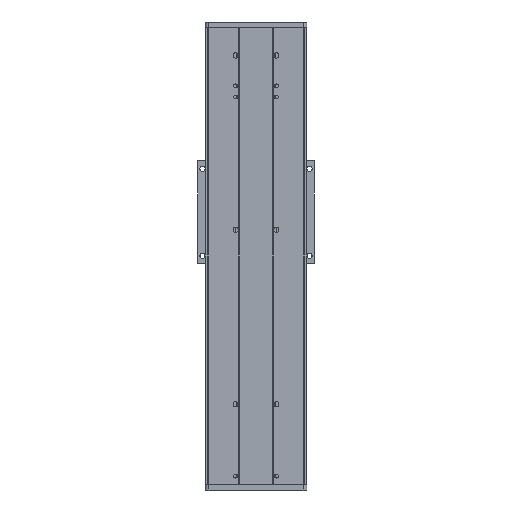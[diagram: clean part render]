
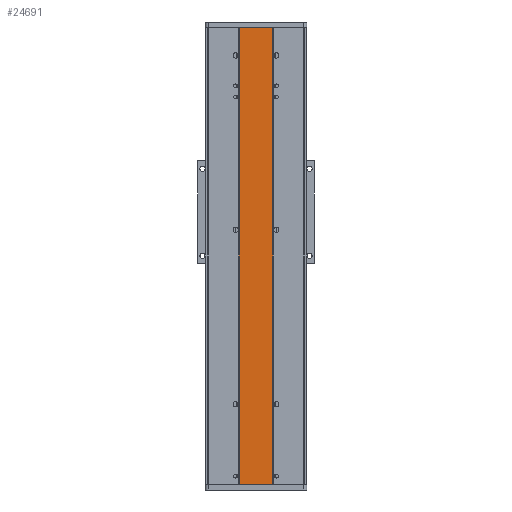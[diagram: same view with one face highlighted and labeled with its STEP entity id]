
A CAD part, front view. The second image highlights one B-rep face of the part: STEP entity #24691.
In plain terms, the highlighted planar face has unit normal (0, -1, 0).
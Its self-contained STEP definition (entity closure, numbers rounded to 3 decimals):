
#1566 = ORIENTED_EDGE ( 'NONE', *, *, #24921, .T. ) ;
#1681 = LINE ( 'NONE', #33968, #12382 ) ;
#2350 = VERTEX_POINT ( 'NONE', #35990 ) ;
#4294 = ORIENTED_EDGE ( 'NONE', *, *, #9112, .F. ) ;
#4319 = AXIS2_PLACEMENT_3D ( 'NONE', #23481, #23656, #51602 ) ;
#5978 = ORIENTED_EDGE ( 'NONE', *, *, #21403, .F. ) ;
#6042 = DIRECTION ( 'NONE',  ( 0., 0., -1. ) ) ;
#6298 = DIRECTION ( 'NONE',  ( 1., 0., 0. ) ) ;
#8567 = EDGE_LOOP ( 'NONE', ( #1566, #38738, #5978, #4294 ) ) ;
#9112 = EDGE_CURVE ( 'NONE', #10384, #2350, #38113, .T. ) ;
#10038 = CARTESIAN_POINT ( 'NONE',  ( 1.27, -78.814, 785. ) ) ;
#10252 = LINE ( 'NONE', #34611, #19605 ) ;
#10384 = VERTEX_POINT ( 'NONE', #10038 ) ;
#10691 = DIRECTION ( 'NONE',  ( 0., 0., -1. ) ) ;
#11674 = PLANE ( 'NONE',  #4319 ) ;
#11799 = CARTESIAN_POINT ( 'NONE',  ( 1.27, -78.814, 0. ) ) ;
#12382 = VECTOR ( 'NONE', #6042, 1000. ) ;
#17605 = LINE ( 'NONE', #20499, #37611 ) ;
#19605 = VECTOR ( 'NONE', #10691, 1000. ) ;
#20499 = CARTESIAN_POINT ( 'NONE',  ( 0., -78.814, 0. ) ) ;
#21403 = EDGE_CURVE ( 'NONE', #2350, #26293, #10252, .T. ) ;
#22441 = CARTESIAN_POINT ( 'NONE',  ( 58.27, -78.814, 0. ) ) ;
#23481 = CARTESIAN_POINT ( 'NONE',  ( 1.27, -78.814, 1445. ) ) ;
#23656 = DIRECTION ( 'NONE',  ( 0., -1., 0. ) ) ;
#24691 = ADVANCED_FACE ( 'NONE', ( #49188 ), #11674, .T. ) ;
#24921 = EDGE_CURVE ( 'NONE', #10384, #38501, #1681, .T. ) ;
#26293 = VERTEX_POINT ( 'NONE', #22441 ) ;
#30164 = CARTESIAN_POINT ( 'NONE',  ( 0., -78.814, 785. ) ) ;
#33968 = CARTESIAN_POINT ( 'NONE',  ( 1.27, -78.814, 1445. ) ) ;
#34611 = CARTESIAN_POINT ( 'NONE',  ( 58.27, -78.814, 1445. ) ) ;
#35990 = CARTESIAN_POINT ( 'NONE',  ( 58.27, -78.814, 785. ) ) ;
#37611 = VECTOR ( 'NONE', #40427, 1000. ) ;
#38113 = LINE ( 'NONE', #30164, #47458 ) ;
#38501 = VERTEX_POINT ( 'NONE', #11799 ) ;
#38738 = ORIENTED_EDGE ( 'NONE', *, *, #47560, .T. ) ;
#40427 = DIRECTION ( 'NONE',  ( 1., 0., 0. ) ) ;
#47458 = VECTOR ( 'NONE', #6298, 1000. ) ;
#47560 = EDGE_CURVE ( 'NONE', #38501, #26293, #17605, .T. ) ;
#49188 = FACE_OUTER_BOUND ( 'NONE', #8567, .T. ) ;
#51602 = DIRECTION ( 'NONE',  ( 0., 0., -1. ) ) ;
